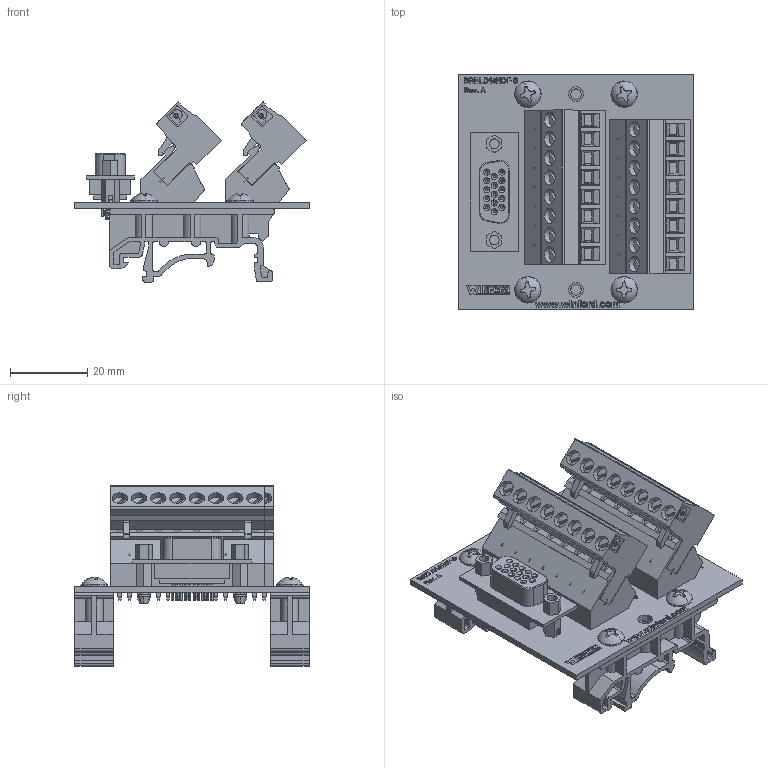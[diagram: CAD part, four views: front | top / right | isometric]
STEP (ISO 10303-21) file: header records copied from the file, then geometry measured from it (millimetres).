
FILE_DESCRIPTION (( 'STEP AP214' ), '1' );
FILE_NAME ('brkld15hdf-rw-din_rev_a.stp', '2021-02-02T01:14:40', ( '' ), ( '' ), 'SwSTEP 2.0', 'SolidWorks 2017', '' );
FILE_SCHEMA (( 'AUTOMOTIVE_DESIGN' ));
Length unit declared in the file: inch
Products named in the file (7): angled terminals 8; Female Straight 15 HD; BRKLD15HDF Board; Screw_SCSMPP-6-0.375_90184A127; Screw Terminal 8; brkld15hdf-rw-din_rev_a; dinm01
Assembly tree (12 placements, depth 2):
  brkld15hdf-rw-din_rev_a
    BRKLD15HDF Board
    angled terminals 8  x2
    dinm01  x2
    Female Straight 15 HD
    Screw Terminal 8  x2
    Screw_SCSMPP-6-0.375_90184A127  x4
Bounding box: 60.96 x 60.96 x 46.77 mm (x, y, z)
Volume: 36373.2 mm3; surface area: 34028.1 mm2
Topology: 12 solids, 12 shells, 3686 faces, 9439 edges, 6133 vertices
Faces by surface type: plane 2369, cylinder 857, bspline 352, cone 92, sphere 8, torus 8
Entity records: 109335 total; most frequent: CARTESIAN_POINT 30662, ORIENTED_EDGE 12228, DIRECTION 10632, EDGE_CURVE 6114, VECTOR 4224, LINE 4224, VERTEX_POINT 3995, AXIS2_PLACEMENT_3D 3204
